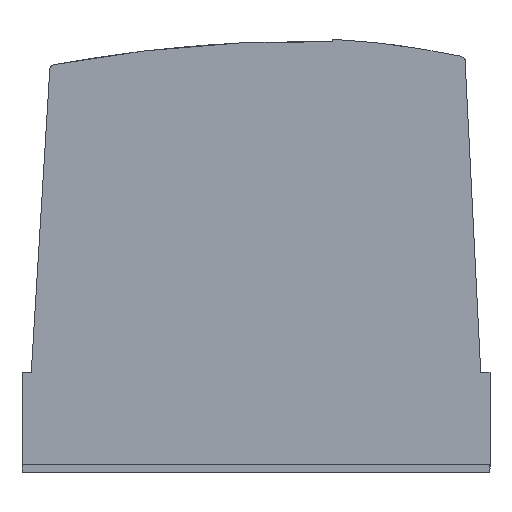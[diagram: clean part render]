
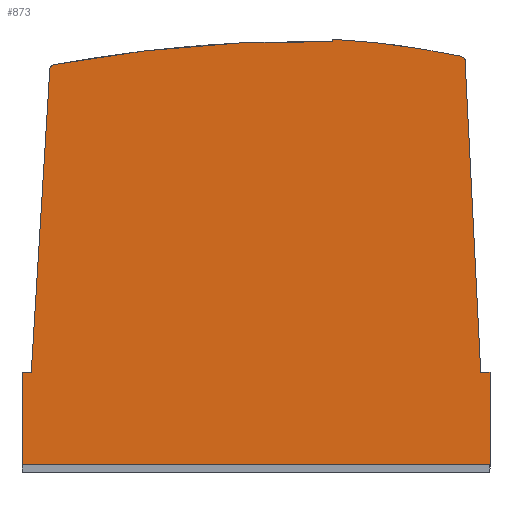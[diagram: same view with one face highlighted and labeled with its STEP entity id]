
A CAD part, top view. The second image highlights one B-rep face of the part: STEP entity #873.
In plain terms, the highlighted planar face has unit normal (0, 0, 1).
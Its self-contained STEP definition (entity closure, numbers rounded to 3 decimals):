
#5 = CARTESIAN_POINT ( 'NONE',  ( 104.542, 98.908, 178. ) ) ;
#70 = LINE ( 'NONE', #8466, #11046 ) ;
#189 = VERTEX_POINT ( 'NONE', #9053 ) ;
#211 = CARTESIAN_POINT ( 'NONE',  ( -99.478, -125.567, 178. ) ) ;
#260 = LINE ( 'NONE', #1239, #5630 ) ;
#440 = VERTEX_POINT ( 'NONE', #5 ) ;
#577 = CIRCLE ( 'NONE', #6891, 4.709 ) ;
#601 = DIRECTION ( 'NONE',  ( 1., 0., 0. ) ) ;
#737 = VERTEX_POINT ( 'NONE', #3828 ) ;
#817 = CARTESIAN_POINT ( 'NONE',  ( -136.146, -125.567, 178. ) ) ;
#866 = CARTESIAN_POINT ( 'NONE',  ( 120.854, -74.567, 178. ) ) ;
#873 = ADVANCED_FACE ( 'NONE', ( #930 ), #11715, .F. ) ;
#930 = FACE_OUTER_BOUND ( 'NONE', #11511, .T. ) ;
#932 = ORIENTED_EDGE ( 'NONE', *, *, #9258, .T. ) ;
#954 = CARTESIAN_POINT ( 'NONE',  ( -136.146, -74.567, 178. ) ) ;
#995 = CIRCLE ( 'NONE', #10713, 759.998 ) ;
#1027 = DIRECTION ( 'NONE',  ( -1., 0., 0. ) ) ;
#1061 = DIRECTION ( 'NONE',  ( 0., 0., 1. ) ) ;
#1187 = VERTEX_POINT ( 'NONE', #3901 ) ;
#1190 = VECTOR ( 'NONE', #3207, 1000. ) ;
#1239 = CARTESIAN_POINT ( 'NONE',  ( 9.641, -125.567, 178. ) ) ;
#1308 = VERTEX_POINT ( 'NONE', #4111 ) ;
#1325 = LINE ( 'NONE', #3520, #6091 ) ;
#1394 = VERTEX_POINT ( 'NONE', #9903 ) ;
#1428 = CARTESIAN_POINT ( 'NONE',  ( -120.892, 91.746, 178. ) ) ;
#1469 = VERTEX_POINT ( 'NONE', #211 ) ;
#1652 = DIRECTION ( 'NONE',  ( 1., 0., 0. ) ) ;
#1706 = CIRCLE ( 'NONE', #4027, 458.909 ) ;
#1923 = CARTESIAN_POINT ( 'NONE',  ( 106.083, 96.762, 178. ) ) ;
#1968 = DIRECTION ( 'NONE',  ( -1., 0., 0. ) ) ;
#2025 = DIRECTION ( 'NONE',  ( -0.05, 0.999, 0. ) ) ;
#2028 = VERTEX_POINT ( 'NONE', #4544 ) ;
#2212 = ORIENTED_EDGE ( 'NONE', *, *, #2345, .T. ) ;
#2345 = EDGE_CURVE ( 'NONE', #2028, #737, #5500, .T. ) ;
#2408 = CARTESIAN_POINT ( 'NONE',  ( 33.792, 107.239, 178. ) ) ;
#2457 = VERTEX_POINT ( 'NONE', #7327 ) ;
#2475 = ORIENTED_EDGE ( 'NONE', *, *, #2895, .T. ) ;
#2722 = DIRECTION ( 'NONE',  ( 0., -1., 0. ) ) ;
#2841 = CIRCLE ( 'NONE', #5983, 1.094 ) ;
#2871 = CARTESIAN_POINT ( 'NONE',  ( 103.393, 94.342, 178. ) ) ;
#2891 = ORIENTED_EDGE ( 'NONE', *, *, #8274, .T. ) ;
#2895 = EDGE_CURVE ( 'NONE', #1394, #4473, #3158, .T. ) ;
#3091 = ORIENTED_EDGE ( 'NONE', *, *, #11631, .T. ) ;
#3158 = LINE ( 'NONE', #1428, #1190 ) ;
#3207 = DIRECTION ( 'NONE',  ( -0.061, -0.998, 0. ) ) ;
#3216 = EDGE_CURVE ( 'NONE', #5621, #1394, #8394, .T. ) ;
#3297 = VERTEX_POINT ( 'NONE', #954 ) ;
#3459 = ORIENTED_EDGE ( 'NONE', *, *, #5951, .T. ) ;
#3461 = DIRECTION ( 'NONE',  ( 1., 0., 0. ) ) ;
#3500 = CARTESIAN_POINT ( 'NONE',  ( -86.203, -125.567, 178. ) ) ;
#3520 = CARTESIAN_POINT ( 'NONE',  ( 9.641, -125.567, 178. ) ) ;
#3578 = VECTOR ( 'NONE', #5674, 1000. ) ;
#3621 = EDGE_CURVE ( 'NONE', #4501, #2457, #4113, .T. ) ;
#3785 = DIRECTION ( 'NONE',  ( 1., 0., 0. ) ) ;
#3828 = CARTESIAN_POINT ( 'NONE',  ( 33.907, 106.897, 178. ) ) ;
#3838 = CARTESIAN_POINT ( 'NONE',  ( -117.91, 91.32, 178. ) ) ;
#3893 = LINE ( 'NONE', #8588, #3578 ) ;
#3901 = CARTESIAN_POINT ( 'NONE',  ( 91.126, -125.567, 178. ) ) ;
#3910 = CARTESIAN_POINT ( 'NONE',  ( 106.96, 97.415, 178. ) ) ;
#3945 = CARTESIAN_POINT ( 'NONE',  ( 107.173, 96.677, 178. ) ) ;
#4027 = AXIS2_PLACEMENT_3D ( 'NONE', #6702, #4741, #4660 ) ;
#4111 = CARTESIAN_POINT ( 'NONE',  ( 107.173, 96.677, 178. ) ) ;
#4113 = LINE ( 'NONE', #5518, #8539 ) ;
#4352 = AXIS2_PLACEMENT_3D ( 'NONE', #7924, #5907, #1027 ) ;
#4372 = ORIENTED_EDGE ( 'NONE', *, *, #3621, .T. ) ;
#4473 = VERTEX_POINT ( 'NONE', #5056 ) ;
#4501 = VERTEX_POINT ( 'NONE', #11925 ) ;
#4509 = EDGE_CURVE ( 'NONE', #1469, #10983, #260, .T. ) ;
#4544 = CARTESIAN_POINT ( 'NONE',  ( 34.111, 107.07, 178. ) ) ;
#4615 = DIRECTION ( 'NONE',  ( -0.01, -1., 0. ) ) ;
#4660 = DIRECTION ( 'NONE',  ( -1., 0., 0. ) ) ;
#4716 = DIRECTION ( 'NONE',  ( 0., 0., 1. ) ) ;
#4741 = DIRECTION ( 'NONE',  ( 0., 0., 1. ) ) ;
#4762 = EDGE_CURVE ( 'NONE', #1187, #4501, #1325, .T. ) ;
#4764 = VECTOR ( 'NONE', #1968, 1000. ) ;
#4818 = VERTEX_POINT ( 'NONE', #866 ) ;
#4888 = EDGE_CURVE ( 'NONE', #1308, #6198, #2841, .T. ) ;
#4953 = ORIENTED_EDGE ( 'NONE', *, *, #3216, .T. ) ;
#5056 = CARTESIAN_POINT ( 'NONE',  ( -131.041, -74.567, 178. ) ) ;
#5197 = ORIENTED_EDGE ( 'NONE', *, *, #4509, .T. ) ;
#5239 = CARTESIAN_POINT ( 'NONE',  ( -118.459, 94.282, 178. ) ) ;
#5500 = CIRCLE ( 'NONE', #7805, 0.361 ) ;
#5518 = CARTESIAN_POINT ( 'NONE',  ( 9.641, -125.567, 178. ) ) ;
#5621 = VERTEX_POINT ( 'NONE', #5239 ) ;
#5630 = VECTOR ( 'NONE', #9946, 1000. ) ;
#5674 = DIRECTION ( 'NONE',  ( -1., 0., 0. ) ) ;
#5850 = VECTOR ( 'NONE', #6969, 1000. ) ;
#5860 = DIRECTION ( 'NONE',  ( 0., 0., 1. ) ) ;
#5907 = DIRECTION ( 'NONE',  ( 0., 0., -1. ) ) ;
#5951 = EDGE_CURVE ( 'NONE', #737, #5621, #995, .T. ) ;
#5983 = AXIS2_PLACEMENT_3D ( 'NONE', #1923, #5860, #3785 ) ;
#6091 = VECTOR ( 'NONE', #6485, 1000. ) ;
#6198 = VERTEX_POINT ( 'NONE', #3910 ) ;
#6364 = ORIENTED_EDGE ( 'NONE', *, *, #8957, .T. ) ;
#6424 = DIRECTION ( 'NONE',  ( -1., 0., 0. ) ) ;
#6485 = DIRECTION ( 'NONE',  ( 1., 0., 0. ) ) ;
#6677 = ORIENTED_EDGE ( 'NONE', *, *, #6772, .T. ) ;
#6702 = CARTESIAN_POINT ( 'NONE',  ( 9.641, -350.081, 178. ) ) ;
#6750 = LINE ( 'NONE', #7509, #12205 ) ;
#6772 = EDGE_CURVE ( 'NONE', #7936, #1469, #70, .T. ) ;
#6797 = LINE ( 'NONE', #7525, #11959 ) ;
#6891 = AXIS2_PLACEMENT_3D ( 'NONE', #2871, #1061, #8782 ) ;
#6969 = DIRECTION ( 'NONE',  ( 0., 1., 0. ) ) ;
#7116 = ORIENTED_EDGE ( 'NONE', *, *, #11686, .T. ) ;
#7327 = CARTESIAN_POINT ( 'NONE',  ( 120.854, -125.567, 178. ) ) ;
#7357 = DIRECTION ( 'NONE',  ( 0., 0., 1. ) ) ;
#7450 = EDGE_CURVE ( 'NONE', #3297, #7936, #6750, .T. ) ;
#7451 = CARTESIAN_POINT ( 'NONE',  ( 20.11, -652.976, 178. ) ) ;
#7509 = CARTESIAN_POINT ( 'NONE',  ( -136.146, -74.567, 178. ) ) ;
#7525 = CARTESIAN_POINT ( 'NONE',  ( 9.641, -125.567, 178. ) ) ;
#7555 = ORIENTED_EDGE ( 'NONE', *, *, #8258, .T. ) ;
#7635 = CARTESIAN_POINT ( 'NONE',  ( 115.746, -74.567, 178. ) ) ;
#7761 = ORIENTED_EDGE ( 'NONE', *, *, #8917, .T. ) ;
#7800 = ORIENTED_EDGE ( 'NONE', *, *, #10876, .T. ) ;
#7805 = AXIS2_PLACEMENT_3D ( 'NONE', #2408, #12169, #10373 ) ;
#7810 = LINE ( 'NONE', #9913, #5850 ) ;
#7924 = CARTESIAN_POINT ( 'NONE',  ( 9.641, -350.081, 178. ) ) ;
#7936 = VERTEX_POINT ( 'NONE', #817 ) ;
#8102 = LINE ( 'NONE', #3945, #11013 ) ;
#8258 = EDGE_CURVE ( 'NONE', #10983, #1187, #6797, .T. ) ;
#8274 = EDGE_CURVE ( 'NONE', #4473, #3297, #3893, .T. ) ;
#8394 = CIRCLE ( 'NONE', #11804, 3.013 ) ;
#8466 = CARTESIAN_POINT ( 'NONE',  ( 9.641, -125.567, 178. ) ) ;
#8539 = VECTOR ( 'NONE', #601, 1000. ) ;
#8588 = CARTESIAN_POINT ( 'NONE',  ( -136.146, -74.567, 178. ) ) ;
#8600 = ORIENTED_EDGE ( 'NONE', *, *, #4762, .T. ) ;
#8782 = DIRECTION ( 'NONE',  ( 1., 0., 0. ) ) ;
#8884 = LINE ( 'NONE', #9740, #4764 ) ;
#8917 = EDGE_CURVE ( 'NONE', #2457, #4818, #7810, .T. ) ;
#8957 = EDGE_CURVE ( 'NONE', #9567, #1308, #8102, .T. ) ;
#9053 = CARTESIAN_POINT ( 'NONE',  ( 34.122, 108.175, 178. ) ) ;
#9258 = EDGE_CURVE ( 'NONE', #4818, #9567, #8884, .T. ) ;
#9567 = VERTEX_POINT ( 'NONE', #7635 ) ;
#9740 = CARTESIAN_POINT ( 'NONE',  ( 115.746, -74.567, 178. ) ) ;
#9750 = DIRECTION ( 'NONE',  ( -1., 0., 0. ) ) ;
#9797 = LINE ( 'NONE', #10418, #12188 ) ;
#9903 = CARTESIAN_POINT ( 'NONE',  ( -120.892, 91.746, 178. ) ) ;
#9913 = CARTESIAN_POINT ( 'NONE',  ( 120.854, -74.567, 178. ) ) ;
#9946 = DIRECTION ( 'NONE',  ( 1., 0., 0. ) ) ;
#10313 = ORIENTED_EDGE ( 'NONE', *, *, #7450, .T. ) ;
#10373 = DIRECTION ( 'NONE',  ( -1., 0., 0. ) ) ;
#10418 = CARTESIAN_POINT ( 'NONE',  ( 34.111, 107.07, 178. ) ) ;
#10713 = AXIS2_PLACEMENT_3D ( 'NONE', #7451, #7357, #6424 ) ;
#10876 = EDGE_CURVE ( 'NONE', #6198, #440, #577, .T. ) ;
#10983 = VERTEX_POINT ( 'NONE', #3500 ) ;
#11013 = VECTOR ( 'NONE', #2025, 1000. ) ;
#11046 = VECTOR ( 'NONE', #1652, 1000. ) ;
#11239 = ORIENTED_EDGE ( 'NONE', *, *, #4888, .T. ) ;
#11511 = EDGE_LOOP ( 'NONE', ( #10313, #6677, #5197, #7555, #8600, #4372, #7761, #932, #6364, #11239, #7800, #7116, #3091, #2212, #3459, #4953, #2475, #2891 ) ) ;
#11631 = EDGE_CURVE ( 'NONE', #189, #2028, #9797, .T. ) ;
#11686 = EDGE_CURVE ( 'NONE', #440, #189, #1706, .T. ) ;
#11715 = PLANE ( 'NONE',  #4352 ) ;
#11804 = AXIS2_PLACEMENT_3D ( 'NONE', #3838, #4716, #9750 ) ;
#11925 = CARTESIAN_POINT ( 'NONE',  ( 104.407, -125.567, 178. ) ) ;
#11959 = VECTOR ( 'NONE', #3461, 1000. ) ;
#12169 = DIRECTION ( 'NONE',  ( 0., 0., -1. ) ) ;
#12188 = VECTOR ( 'NONE', #4615, 1000. ) ;
#12205 = VECTOR ( 'NONE', #2722, 1000. ) ;
